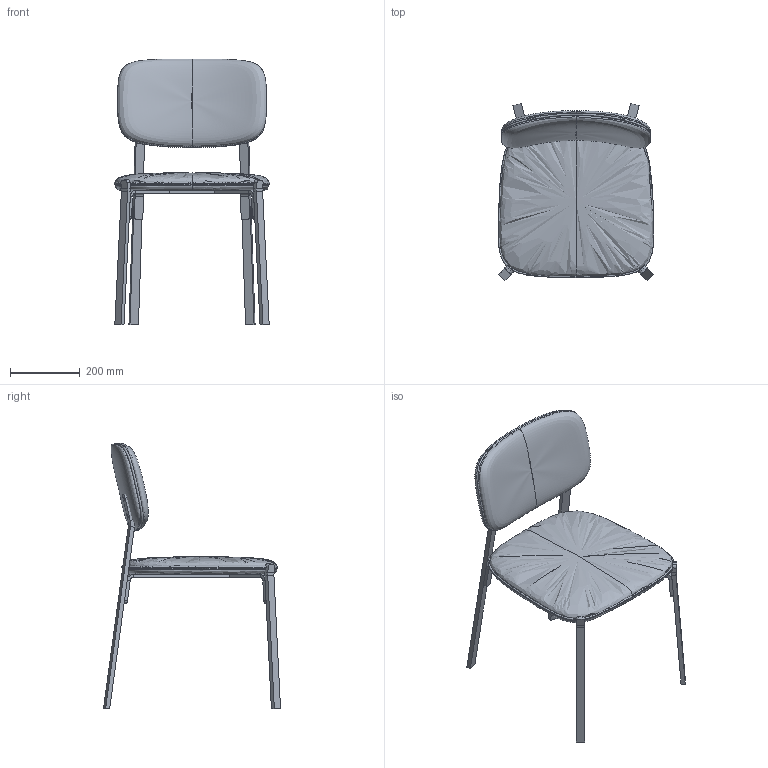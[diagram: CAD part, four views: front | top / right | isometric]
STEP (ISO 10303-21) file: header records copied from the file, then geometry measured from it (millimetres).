
FILE_DESCRIPTION(/* description */ (''),/* implementation_level */ '2;1');
FILE_NAME(/* name */ 'KINOSH~2',/* time_stamp */ '2018-10-27T13:36:01+09:00',/* author */ (''),/* organization */ (''),/* preprocessor_version */ 'ST-DEVELOPER v15',/* originating_system */ '',/* authorisation */ '');
FILE_SCHEMA (('AUTOMOTIVE_DESIGN'));
Length unit declared in the file: millimetre
Products named in the file (1): Document
Bounding box: 445.9 x 506.21 x 760 mm (x, y, z)
Volume: 5120539.7 mm3; surface area: 1407897.9 mm2
Topology: 15 solids, 18 shells, 361 faces, 802 edges, 460 vertices
Faces by surface type: bspline 330, plane 31
Entity records: 44997 total; most frequent: CARTESIAN_POINT 40108, ORIENTED_EDGE 1582, EDGE_CURVE 794, B_SPLINE_CURVE_WITH_KNOTS 540, VERTEX_POINT 460, EDGE_LOOP 385, ADVANCED_FACE 361, FACE_OUTER_BOUND 361
